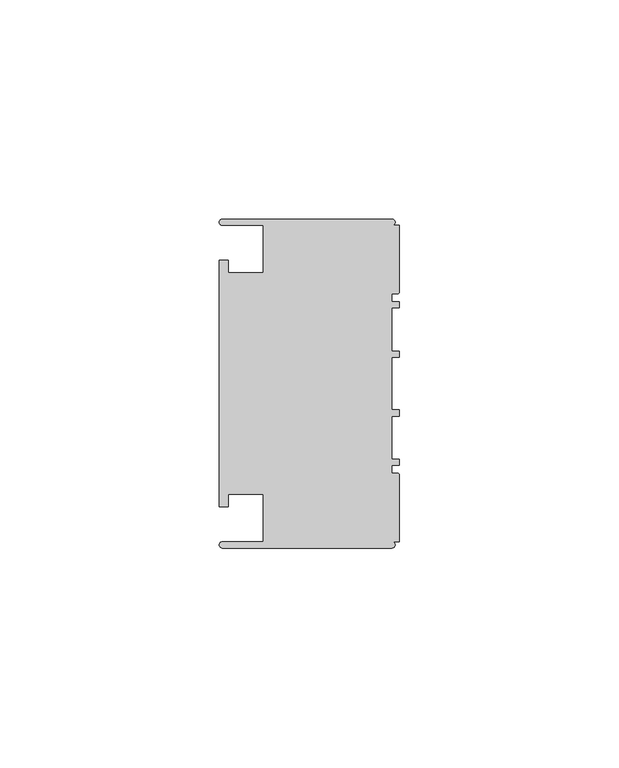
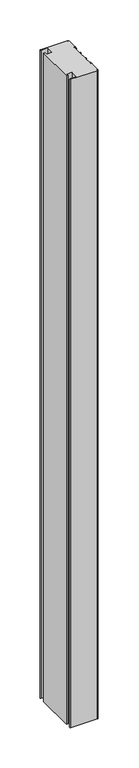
"""IFC4 building model written with IfcOpenShell, lengths in millimetres: member geometry, Прямоугольный импост : 3-AMG-2-Профиль 40Х75 Низ Л."""

from ifc_helpers import new_model, si_unit, point, frame, frame_2d, origin, place, context, project, spatial, polyline, circle_curve, trimmed, segment, composite_curve, outline, extrude, source, transform, mapped, element, save


def member_abd9c4e0(model_context):
    return source(origin(), model_context, "Body", "SweptSolid", [
        extrude(outline(composite_curve([segment(polyline([(-1.7, -37.5), (-40.4, -37.5)]), True, "CONTINUOUS"), segment(trimmed(circle_curve(frame_2d((-40.4, -36.8)), 0.7), [point((-40.4, -37.5))], [point((-40.4, -36.1))], False, "CARTESIAN"), True, "CONTINUOUS"), segment(polyline([(-40.4, -36.1), (-31.0, -36.1), (-31.0, -25.25), (-39.0, -25.25), (-39.0, -28.1), (-41.1, -28.1), (-41.1, 28.1), (-39.0, 28.1), (-39.0, 25.25), (-31.0, 25.25), (-31.0, 36.1), (-40.4, 36.1)]), True, "CONTINUOUS"), segment(trimmed(circle_curve(frame_2d((-40.4, 36.8)), 0.7), [point((-40.4, 36.1))], [point((-40.4, 37.5))], False, "CARTESIAN"), True, "CONTINUOUS"), segment(polyline([(-40.4, 37.5), (-1.7, 37.5)]), True, "CONTINUOUS"), segment(trimmed(circle_curve(frame_2d((-1.7, 36.8)), 0.7), [point((-1.7, 37.5))], [point((-1.7, 36.1))], False, "CARTESIAN"), True, "CONTINUOUS"), segment(polyline([(-1.7, 36.1), (0.0, 36.1), (0.0, 20.95)]), True, "CONTINUOUS"), segment(trimmed(circle_curve(frame_2d((-0.5, 20.95)), 0.5), [point((0.0, 20.95))], [point((-0.5, 20.45))], False, "CARTESIAN"), True, "CONTINUOUS"), segment(polyline([(-0.5, 20.45), (-1.8, 20.45), (-1.8, 18.65), (0.0, 18.65), (0.0, 17.25), (-1.8, 17.25), (-1.8, 7.4), (0.0, 7.4), (0.0, 6.0), (-1.8, 6.0), (-1.8, -6.0), (0.0, -6.0), (0.0, -7.4), (-1.8, -7.4), (-1.8, -17.25), (0.0, -17.25), (0.0, -18.65), (-1.8, -18.65), (-1.8, -20.45), (-0.5, -20.45)]), True, "CONTINUOUS"), segment(trimmed(circle_curve(frame_2d((-0.5, -20.95)), 0.5), [point((-0.5, -20.45))], [point((0.0, -20.95))], False, "CARTESIAN"), True, "CONTINUOUS"), segment(polyline([(0.0, -20.95), (0.0, -36.1), (-1.7, -36.1)]), True, "CONTINUOUS"), segment(trimmed(circle_curve(frame_2d((-1.7, -36.8)), 0.7), [point((-1.7, -36.1))], [point((-1.7, -37.5))], False, "CARTESIAN"), True, "CONTINUOUS")], self_intersect=False)), frame((0.0, 0.0, -984.3988789), z_axis=(0.0, 0.0, 1.0), x_axis=(1.0, 0.0, 0.0)), (0.0, 0.0, 1.0), 984.3988789),
    ])


if __name__ == "__main__":
    model = new_model("IFC4")
    model_context = context("Model", 3, world=origin())
    ifc_project = project(units=[si_unit("LENGTHUNIT", "METRE", prefix="MILLI")], contexts=[model_context])
    site = spatial("IfcSite", under=ifc_project)
    building = spatial("IfcBuilding", under=site)
    placement = place(None, origin())
    member_shape = member_abd9c4e0(model_context)
    element("IfcMember", 1, ObjectType="Прямоугольный импост : 3-AMG-2-Профиль 40Х75 Низ Л", at=placement, inside=building, context=model_context, shape_type="MappedRepresentation", body=[
        mapped(member_shape, transform((0.0, 0.0, 0.0), x_axis=(1.0, 0.0, 0.0), y_axis=(0.0, 1.0, 0.0), z_axis=(0.0, 0.0, 1.0))),
    ])
    save(model, "model.ifc")
